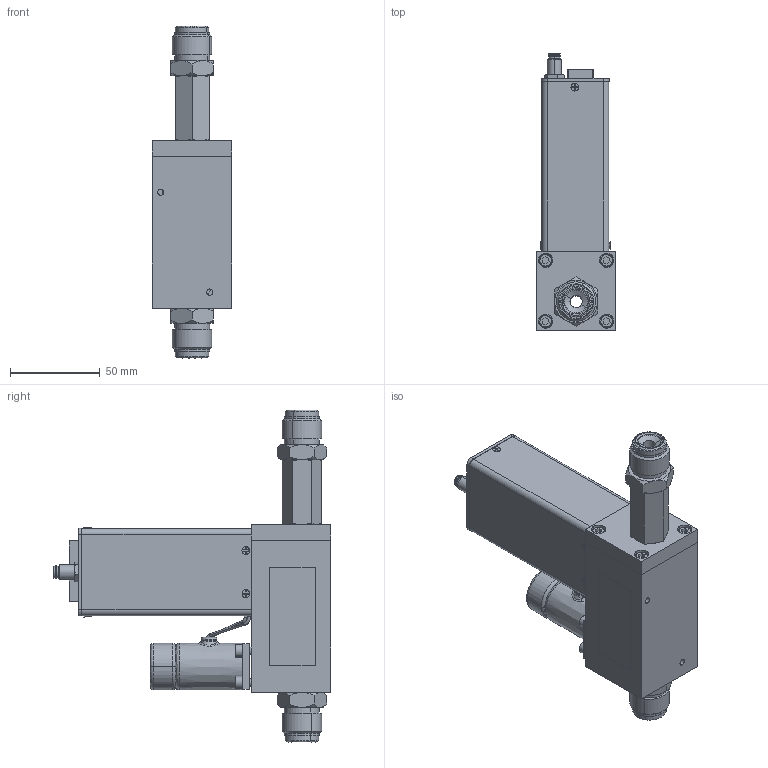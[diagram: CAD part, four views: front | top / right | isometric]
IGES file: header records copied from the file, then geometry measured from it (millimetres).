
Start section: SolidWorks IGES file using analytic representation for surfaces
Global section: file name: G:\Engineering\CAD MODELS FOR SALES\CAD MODEL STORAGE\SLA\SLA5851\CUSTOMER FILES\IGES\SLA5851-8-L1-1-A-REVB.IGS; native system: SolidWorks 2020; preprocessor: SolidWorks 2020; author: CFehr; date: 210907.103310; units: inch
Bounding box: 44.28 x 154.44 x 184.92 mm (x, y, z)
Volume: 103608.2 mm3; surface area: 109819.6 mm2
Topology: 37 solids, 37 shells, 1761 faces, 4706 edges, 2981 vertices
Faces by surface type: plane 1086, revolution 537, bspline 138
